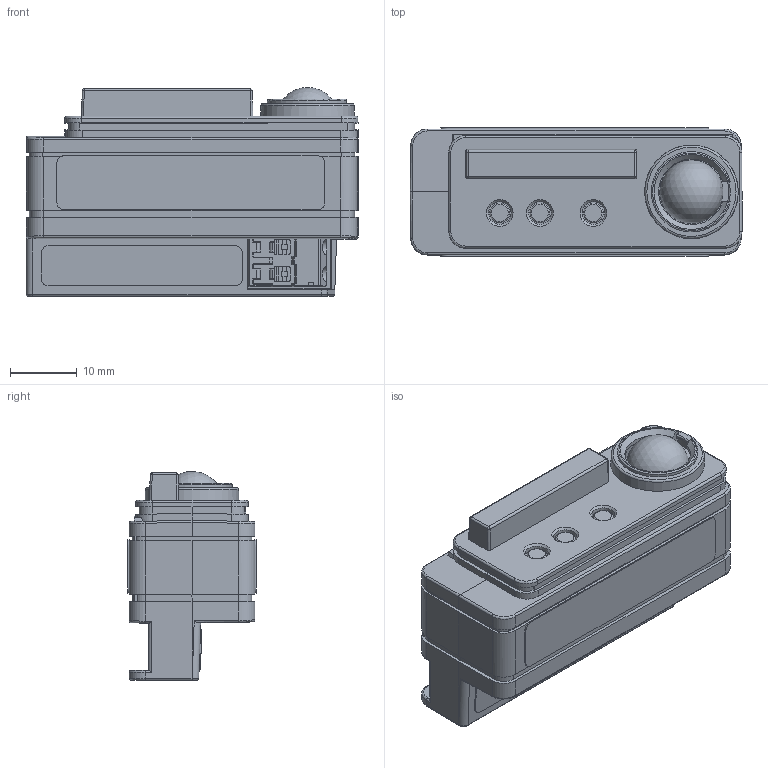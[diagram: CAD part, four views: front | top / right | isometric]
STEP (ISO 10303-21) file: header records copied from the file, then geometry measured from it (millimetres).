
FILE_DESCRIPTION(/* description */ (''),/* implementation_level */ '2;1');
FILE_NAME(/* name */ 'C:\Data\Vault\LE-TPD\9290 017 02600_Sensor SNSxxx\SNS200 2017-11-17 commercial file.stp',/* time_stamp */ '2017-11-17T00:03:15-08:00',/* author */ ('nly10517'),/* organization */ (''),/* preprocessor_version */ 'ST-DEVELOPER v16.5',/* originating_system */ 'Autodesk Inventor 2017',/* authorisation */ '');
FILE_SCHEMA (('AUTOMOTIVE_DESIGN { 1 0 10303 214 3 1 1 }'));
Length unit declared in the file: millimetre
Products named in the file (1): SNS200
Bounding box: 49.6 x 19.2 x 31.18 mm (x, y, z)
Volume: 19664.6 mm3; surface area: 9063.2 mm2
Topology: 1 solids, 23 shells, 1377 faces, 3723 edges, 2419 vertices
Faces by surface type: plane 923, cylinder 279, bspline 69, cone 37, torus 35, sphere 34
Full cylindrical faces by diameter (mm): 1.3 x12, 2.7 x1, 3 x1
Entity records: 46218 total; most frequent: CARTESIAN_POINT 10163, ORIENTED_EDGE 7360, DIRECTION 7054, EDGE_CURVE 3679, LINE 2722, VECTOR 2722, VERTEX_POINT 2414, AXIS2_PLACEMENT_3D 2166
